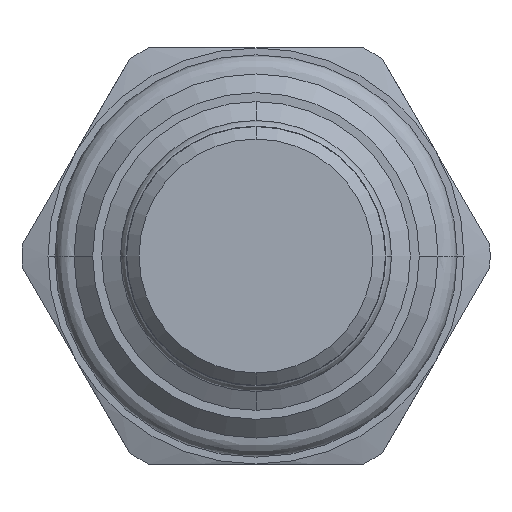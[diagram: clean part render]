
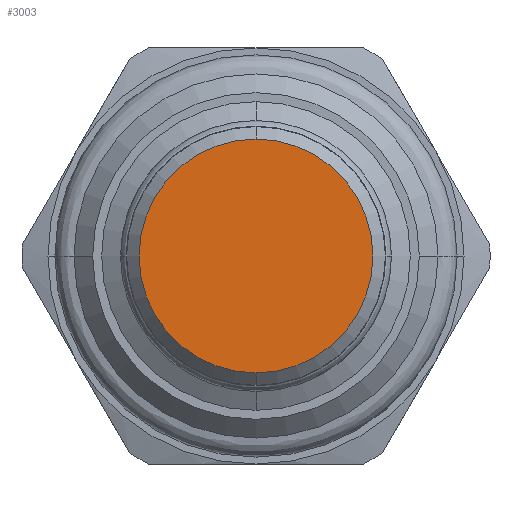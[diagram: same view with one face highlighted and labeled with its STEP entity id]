
A CAD part, front view. The second image highlights one B-rep face of the part: STEP entity #3003.
In plain terms, the highlighted planar face has unit normal (0, -1, 0).
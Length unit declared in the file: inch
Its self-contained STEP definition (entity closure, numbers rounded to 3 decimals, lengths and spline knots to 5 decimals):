
#1139=CARTESIAN_POINT('',(0.,-1.25274,0.));
#1140=DIRECTION('',(0.,1.,0.));
#1141=DIRECTION('',(0.,0.,1.));
#1142=AXIS2_PLACEMENT_3D('',#1139,#1140,#1141);
#1157=CARTESIAN_POINT('',(0.,-1.25274,0.));
#1158=DIRECTION('',(0.,1.,0.));
#1159=DIRECTION('',(0.,0.,-1.));
#1160=AXIS2_PLACEMENT_3D('',#1157,#1158,#1159);
#1321=CARTESIAN_POINT('',(0.,-1.25274,-0.281));
#1322=CARTESIAN_POINT('',(0.,-1.25274,0.281));
#1323=VERTEX_POINT('',#1321);
#1324=VERTEX_POINT('',#1322);
#2993=CARTESIAN_POINT('',(0.,-1.25274,0.));
#2994=DIRECTION('',(0.,-1.,0.));
#2995=DIRECTION('',(0.,0.,-1.));
#2996=AXIS2_PLACEMENT_3D('',#2993,#2994,#2995);
#2997=PLANE('',#2996);
#2998=ORIENTED_EDGE('',*,*,#2983,.T.);
#3000=ORIENTED_EDGE('',*,*,#2999,.T.);
#3001=EDGE_LOOP('',(#2998,#3000));
#3002=FACE_OUTER_BOUND('',#3001,.F.);
#3003=ADVANCED_FACE('',(#3002),#2997,.T.);
#1143=CIRCLE('',#1142,0.281);
#1161=CIRCLE('',#1160,0.281);
#2983=EDGE_CURVE('',#1324,#1323,#1143,.T.);
#2999=EDGE_CURVE('',#1323,#1324,#1161,.T.);
